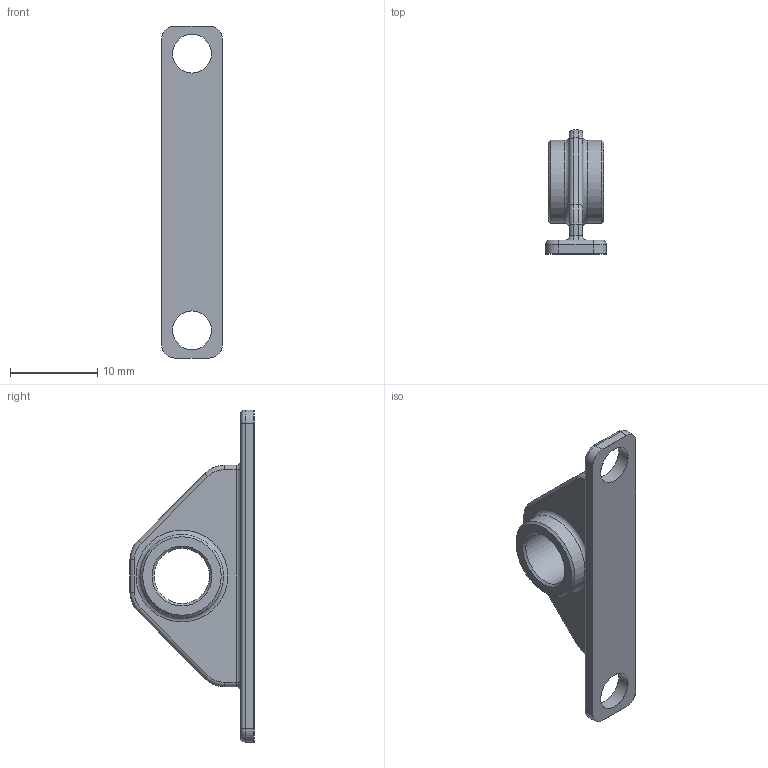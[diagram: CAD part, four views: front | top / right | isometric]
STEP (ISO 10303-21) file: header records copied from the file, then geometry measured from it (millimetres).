
FILE_DESCRIPTION(/* description */ (''),/* implementation_level */ '2;1');
FILE_NAME(/* name */ 'Import.stp',/* time_stamp */ '2024-07-03T11:37:54-04:00',/* author */ ('Matt Perez'),/* organization */ (''),/* preprocessor_version */ 'ST-DEVELOPER v19.2',/* originating_system */ 'Autodesk Inventor 2023',/* authorisation */ '');
FILE_SCHEMA (('AUTOMOTIVE_DESIGN { 1 0 10303 214 3 1 1 }'));
Length unit declared in the file: inch
Products named in the file (1): Part6
Bounding box: 6.99 x 14.25 x 38.1 mm (x, y, z)
Surface area: 1257.5 mm2 (no closed solid volume)
Topology: 0 solids, 2 shells, 68 faces, 166 edges, 103 vertices
Faces by surface type: cylinder 31, torus 18, plane 15, cone 4
Full cylindrical faces by diameter (mm): 4.445 x2, 6.35 x1, 9.525 x2
Entity records: 2063 total; most frequent: DIRECTION 401, CARTESIAN_POINT 338, ORIENTED_EDGE 312, EDGE_CURVE 166, AXIS2_PLACEMENT_3D 166, VERTEX_POINT 103, CIRCLE 97, EDGE_LOOP 77
